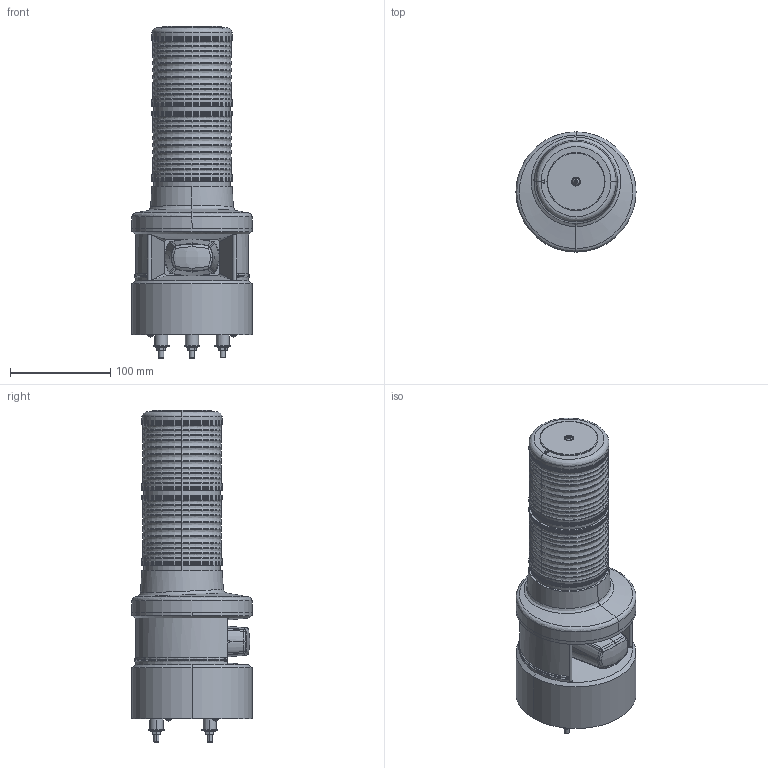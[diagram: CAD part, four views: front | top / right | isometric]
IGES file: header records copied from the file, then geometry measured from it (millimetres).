
Start section: IGES file generated by C3D Converter 1.6 translator by C3D Labs., translator version IGESOUT-5.1.
Global section: file name: C:\Users\Ìîíî\OneDrive\Desktop\øòóêè\Êóëåð TFL100B\TLF100B-RG.igs; preprocessor: 1.0; author: Ìîíî; organization: unknown; date: -17760631:212109; units: millimetre
Bounding box: 120 x 120 x 331.95 mm (x, y, z)
Volume: 1530905.8 mm3; surface area: 227756.9 mm2
Topology: 30 solids, 30 shells, 818 faces, 1893 edges, 1149 vertices
Faces by surface type: revolution 462, bspline 352, extrusion 4
